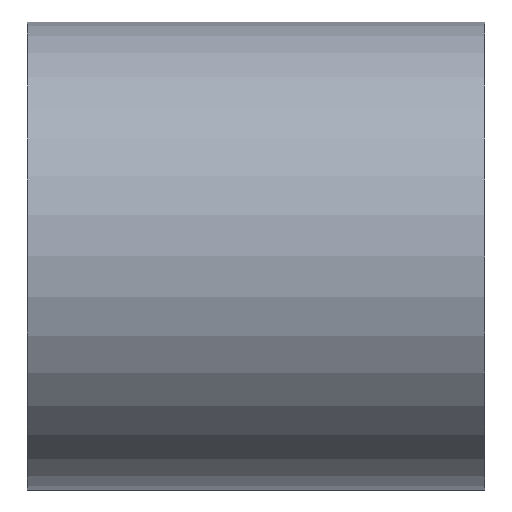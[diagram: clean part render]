
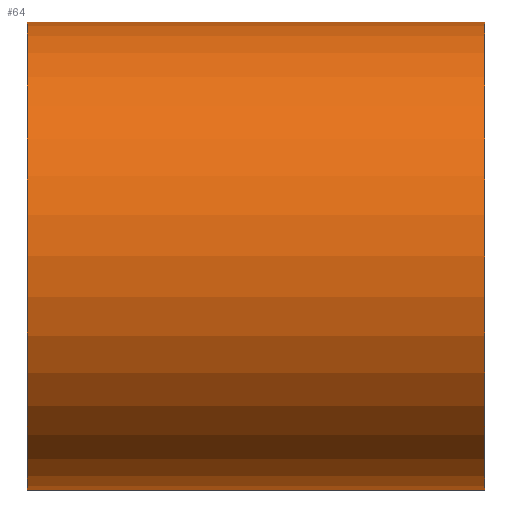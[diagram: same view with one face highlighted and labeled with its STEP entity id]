
A CAD part, front view. The second image highlights one B-rep face of the part: STEP entity #64.
In plain terms, the highlighted cylindrical face has radius 109.55 mm (diameter 219.1 mm), a full revolution.
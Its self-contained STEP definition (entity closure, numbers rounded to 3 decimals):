
#21=FACE_OUTER_BOUND('',#27,.T.);
#27=EDGE_LOOP('',(#54,#55,#56,#57));
#31=LINE('',#134,#33);
#33=VECTOR('',#116,109.55);
#36=CIRCLE('',#94,109.55);
#37=CIRCLE('',#96,109.55);
#40=VERTEX_POINT('',#129);
#41=VERTEX_POINT('',#132);
#45=EDGE_CURVE('',#40,#40,#36,.T.);
#46=EDGE_CURVE('',#41,#41,#37,.T.);
#47=EDGE_CURVE('',#41,#40,#31,.T.);
#54=ORIENTED_EDGE('',*,*,#46,.F.);
#55=ORIENTED_EDGE('',*,*,#47,.T.);
#56=ORIENTED_EDGE('',*,*,#45,.T.);
#57=ORIENTED_EDGE('',*,*,#47,.F.);
#61=CYLINDRICAL_SURFACE('',#95,109.55);
#64=ADVANCED_FACE('',(#21),#61,.T.);
#94=AXIS2_PLACEMENT_3D('',#130,#110,#111);
#95=AXIS2_PLACEMENT_3D('',#131,#112,#113);
#96=AXIS2_PLACEMENT_3D('',#133,#114,#115);
#110=DIRECTION('center_axis',(-1.,0.,0.));
#111=DIRECTION('ref_axis',(0.,0.,1.));
#112=DIRECTION('center_axis',(-1.,0.,0.));
#113=DIRECTION('ref_axis',(0.,1.,0.));
#114=DIRECTION('center_axis',(-1.,0.,0.));
#115=DIRECTION('ref_axis',(0.,0.,1.));
#116=DIRECTION('',(1.,0.,0.));
#129=CARTESIAN_POINT('',(214.,-109.55,0.));
#130=CARTESIAN_POINT('Origin',(214.,0.,0.));
#131=CARTESIAN_POINT('Origin',(107.,0.,0.));
#132=CARTESIAN_POINT('',(0.,-109.55,0.));
#133=CARTESIAN_POINT('Origin',(0.,0.,
0.));
#134=CARTESIAN_POINT('',(107.,-109.55,0.));
